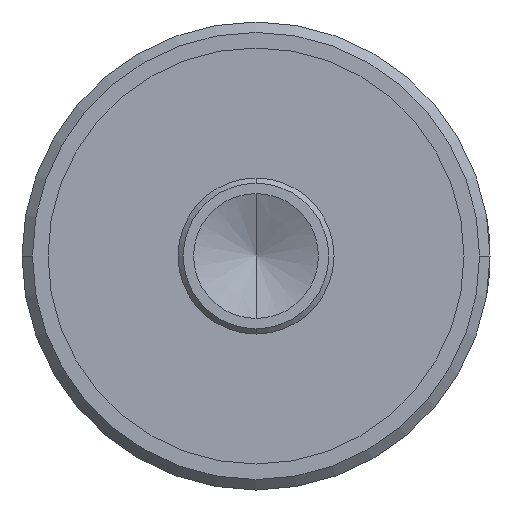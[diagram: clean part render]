
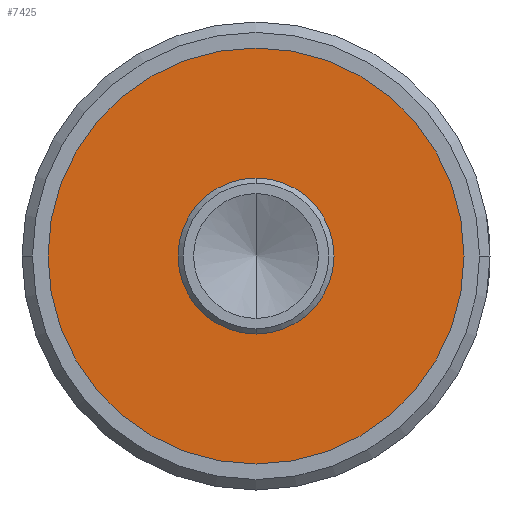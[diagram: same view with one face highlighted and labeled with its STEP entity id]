
A CAD part, front view. The second image highlights one B-rep face of the part: STEP entity #7425.
In plain terms, the highlighted planar face has unit normal (0, -1, 0).
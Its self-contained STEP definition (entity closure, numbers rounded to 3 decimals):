
#57=CARTESIAN_POINT('',(0.,0.3,0.));
#58=DIRECTION('',(0.,-1.,0.));
#59=DIRECTION('',(0.,0.,-1.));
#60=AXIS2_PLACEMENT_3D('',#57,#58,#59);
#62=CARTESIAN_POINT('',(0.,0.3,0.));
#63=DIRECTION('',(0.,-1.,0.));
#64=DIRECTION('',(0.,0.,1.));
#65=AXIS2_PLACEMENT_3D('',#62,#63,#64);
#67=CARTESIAN_POINT('',(0.,0.3,0.));
#68=DIRECTION('',(0.,-1.,0.));
#69=DIRECTION('',(0.,0.,-1.));
#70=AXIS2_PLACEMENT_3D('',#67,#68,#69);
#72=CARTESIAN_POINT('',(0.,0.3,0.));
#73=DIRECTION('',(0.,-1.,0.));
#74=DIRECTION('',(0.,0.,1.));
#75=AXIS2_PLACEMENT_3D('',#72,#73,#74);
#5954=CARTESIAN_POINT('',(0.,0.3,-1.5));
#5955=VERTEX_POINT('',#5954);
#5956=CARTESIAN_POINT('',(0.,0.3,1.5));
#5957=VERTEX_POINT('',#5956);
#6720=CARTESIAN_POINT('',(0.,0.3,4.2));
#6721=CARTESIAN_POINT('',(0.,0.3,-4.2));
#6722=VERTEX_POINT('',#6720);
#6723=VERTEX_POINT('',#6721);
#7410=CARTESIAN_POINT('',(0.,0.3,0.));
#7411=DIRECTION('',(0.,-1.,0.));
#7412=DIRECTION('',(0.,0.,-1.));
#7413=AXIS2_PLACEMENT_3D('',#7410,#7411,#7412);
#7414=PLANE('',#7413);
#7415=ORIENTED_EDGE('',*,*,#7404,.F.);
#7416=ORIENTED_EDGE('',*,*,#7390,.F.);
#7417=EDGE_LOOP('',(#7415,#7416));
#7418=FACE_OUTER_BOUND('',#7417,.F.);
#7420=ORIENTED_EDGE('',*,*,#7419,.T.);
#7422=ORIENTED_EDGE('',*,*,#7421,.T.);
#7423=EDGE_LOOP('',(#7420,#7422));
#7424=FACE_BOUND('',#7423,.F.);
#61=CIRCLE('',#60,4.2);
#66=CIRCLE('',#65,4.2);
#71=CIRCLE('',#70,1.5);
#76=CIRCLE('',#75,1.5);
#7390=EDGE_CURVE('',#6722,#6723,#66,.T.);
#7404=EDGE_CURVE('',#6723,#6722,#61,.T.);
#7419=EDGE_CURVE('',#5955,#5957,#71,.T.);
#7421=EDGE_CURVE('',#5957,#5955,#76,.T.);
#7425=ADVANCED_FACE('',(#7418,#7424),#7414,.T.);
